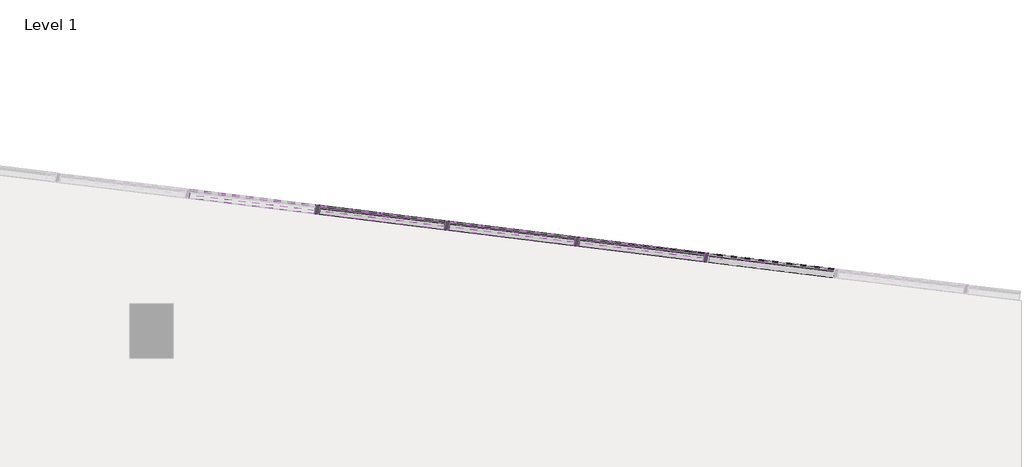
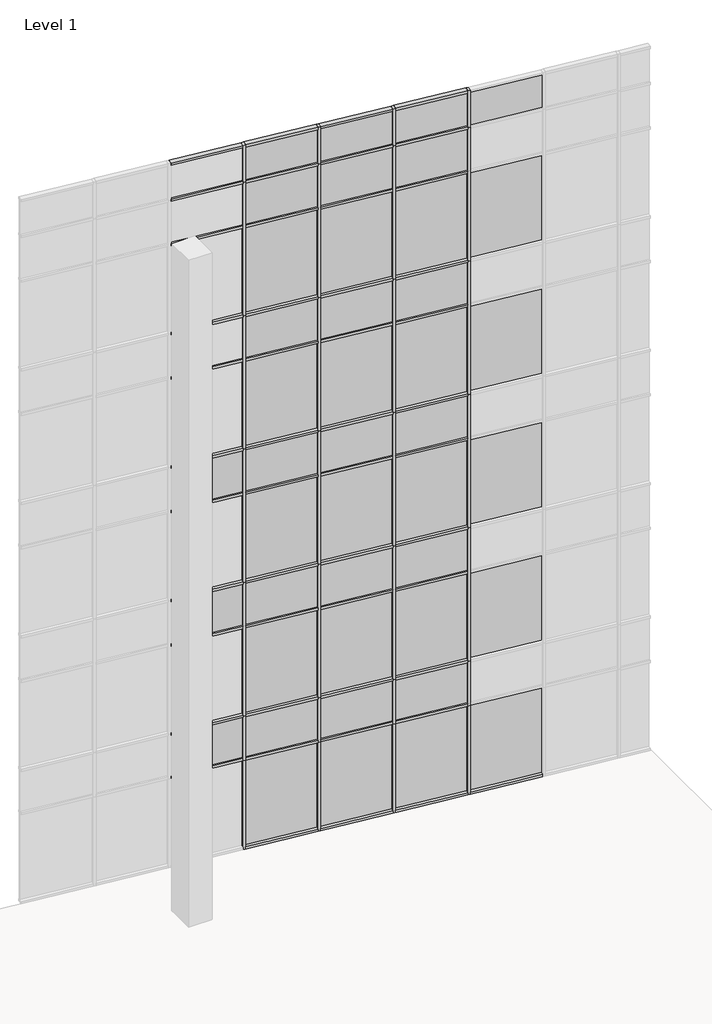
# One storey, part 21 of 23: 76 members, 42 plates.
"""IFC4 building model written with IfcOpenShell, lengths in millimetres."""

from ifc_helpers import new_model, si_unit, origin, place, context, project, spatial, transform, mapped, element, save
from components import member_2b49869a, member_f92b8aa2, member_810865a4, member_f0fea5a5, member_6d5c3e5e, member_9764dd38, system_panel_glazed_14c75400, system_panel_solid_5dfe6f83, system_panel_solid_e25e2004, system_panel_solid_b7551183

model = new_model("IFC4")

# Units and contexts
model_context = context("Model", 3, world=origin())
ifc_project = project(units=[si_unit("LENGTHUNIT", "METRE", prefix="MILLI")], contexts=[model_context])

# Site, building, storey
site = spatial("IfcSite", under=ifc_project)
building = spatial("IfcBuilding", under=site)
storey = spatial("IfcBuildingStorey", under=building, Name="Level 1", Elevation=0.0)

# Members
placement = place(None, origin())
member_shape = member_2b49869a(model_context)
element("IfcMember", 1, ObjectType="Rectangular Mullion : 2.5\" x 5\" rectangular", at=placement, inside=storey, context=model_context, shape_type="MappedRepresentation", body=[
    mapped(member_shape, transform((10636.016062, 10565.4226148, 2438.4), x_axis=(0.9925461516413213, -0.12186934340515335, 0.0), y_axis=(-0.12186934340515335, -0.9925461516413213, 0.0), z_axis=(0.0, 0.0, -1.0))),
])
element("IfcMember", 2, ObjectType="Rectangular Mullion : 2.5\" x 5\" rectangular", at=placement, inside=storey, context=model_context, shape_type="MappedRepresentation", body=[
    mapped(member_shape, transform((8820.8476599, 10788.29727, 2438.4), x_axis=(0.9925461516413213, -0.12186934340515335, 0.0), y_axis=(-0.12186934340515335, -0.9925461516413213, 0.0), z_axis=(0.0, 0.0, -1.0))),
])
element("IfcMember", 3, ObjectType="Rectangular Mullion : 2.5\" x 5\" rectangular", at=placement, inside=storey, context=model_context, shape_type="MappedRepresentation", body=[
    mapped(member_shape, transform((7005.6792577, 11011.1719252, 2438.4), x_axis=(0.9925461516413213, -0.12186934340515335, 0.0), y_axis=(-0.12186934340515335, -0.9925461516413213, 0.0), z_axis=(0.0, 0.0, -1.0))),
])
element("IfcMember", 4, ObjectType="Rectangular Mullion : 2.5\" x 5\" rectangular", at=placement, inside=storey, context=model_context, shape_type="MappedRepresentation", body=[
    mapped(member_shape, transform((5190.5108556, 11234.0465804, 2438.4), x_axis=(0.9925461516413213, -0.12186934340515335, 0.0), y_axis=(-0.12186934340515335, -0.9925461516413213, 0.0), z_axis=(0.0, 0.0, -1.0))),
])
member_2_shape = member_f92b8aa2(model_context)
element("IfcMember", 5, ObjectType="Rectangular Mullion : 2.5\" x 5\" rectangular", at=placement, inside=storey, context=model_context, shape_type="MappedRepresentation", body=[
    mapped(member_2_shape, transform((10636.016062, 10565.4226148, 18288.0), x_axis=(0.9925461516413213, -0.12186934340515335, 0.0), y_axis=(-0.12186934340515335, -0.9925461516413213, 0.0), z_axis=(0.0, 0.0, -1.0))),
])
element("IfcMember", 6, ObjectType="Rectangular Mullion : 2.5\" x 5\" rectangular", at=placement, inside=storey, context=model_context, shape_type="MappedRepresentation", body=[
    mapped(member_2_shape, transform((8820.8476599, 10788.29727, 18288.0), x_axis=(0.9925461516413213, -0.12186934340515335, 0.0), y_axis=(-0.12186934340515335, -0.9925461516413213, 0.0), z_axis=(0.0, 0.0, -1.0))),
])
element("IfcMember", 7, ObjectType="Rectangular Mullion : 2.5\" x 5\" rectangular", at=placement, inside=storey, context=model_context, shape_type="MappedRepresentation", body=[
    mapped(member_2_shape, transform((7005.6792577, 11011.1719252, 18288.0), x_axis=(0.9925461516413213, -0.12186934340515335, 0.0), y_axis=(-0.12186934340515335, -0.9925461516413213, 0.0), z_axis=(0.0, 0.0, -1.0))),
])
element("IfcMember", 8, ObjectType="Rectangular Mullion : 2.5\" x 5\" rectangular", at=placement, inside=storey, context=model_context, shape_type="MappedRepresentation", body=[
    mapped(member_2_shape, transform((5190.5108556, 11234.0465804, 18288.0), x_axis=(0.9925461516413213, -0.12186934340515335, 0.0), y_axis=(-0.12186934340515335, -0.9925461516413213, 0.0), z_axis=(0.0, 0.0, -1.0))),
])
member_3_shape = member_810865a4(model_context)
element("IfcMember", 9, ObjectType="Rectangular Mullion : 2.5\" x 5\" rectangular", at=placement, inside=storey, context=model_context, shape_type="MappedRepresentation", body=[
    mapped(member_3_shape, transform((10636.016062, 10565.4226148, 14630.4), x_axis=(0.9925461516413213, -0.12186934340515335, 0.0), y_axis=(-0.12186934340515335, -0.9925461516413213, 0.0), z_axis=(0.0, 0.0, -1.0))),
])
element("IfcMember", 10, ObjectType="Rectangular Mullion : 2.5\" x 5\" rectangular", at=placement, inside=storey, context=model_context, shape_type="MappedRepresentation", body=[
    mapped(member_3_shape, transform((10636.016062, 10565.4226148, 10972.8), x_axis=(0.9925461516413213, -0.12186934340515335, 0.0), y_axis=(-0.12186934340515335, -0.9925461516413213, 0.0), z_axis=(0.0, 0.0, -1.0))),
])
element("IfcMember", 11, ObjectType="Rectangular Mullion : 2.5\" x 5\" rectangular", at=placement, inside=storey, context=model_context, shape_type="MappedRepresentation", body=[
    mapped(member_3_shape, transform((10636.016062, 10565.4226148, 7315.2), x_axis=(0.9925461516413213, -0.12186934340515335, 0.0), y_axis=(-0.12186934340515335, -0.9925461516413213, 0.0), z_axis=(0.0, 0.0, -1.0))),
])
element("IfcMember", 12, ObjectType="Rectangular Mullion : 2.5\" x 5\" rectangular", at=placement, inside=storey, context=model_context, shape_type="MappedRepresentation", body=[
    mapped(member_3_shape, transform((10636.016062, 10565.4226148, 3657.6), x_axis=(0.9925461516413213, -0.12186934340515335, 0.0), y_axis=(-0.12186934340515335, -0.9925461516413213, 0.0), z_axis=(0.0, 0.0, -1.0))),
])
element("IfcMember", 13, ObjectType="Rectangular Mullion : 2.5\" x 5\" rectangular", at=placement, inside=storey, context=model_context, shape_type="MappedRepresentation", body=[
    mapped(member_3_shape, transform((8820.8476599, 10788.29727, 14630.4), x_axis=(0.9925461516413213, -0.12186934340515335, 0.0), y_axis=(-0.12186934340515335, -0.9925461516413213, 0.0), z_axis=(0.0, 0.0, -1.0))),
])
element("IfcMember", 14, ObjectType="Rectangular Mullion : 2.5\" x 5\" rectangular", at=placement, inside=storey, context=model_context, shape_type="MappedRepresentation", body=[
    mapped(member_3_shape, transform((8820.8476599, 10788.29727, 10972.8), x_axis=(0.9925461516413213, -0.12186934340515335, 0.0), y_axis=(-0.12186934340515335, -0.9925461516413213, 0.0), z_axis=(0.0, 0.0, -1.0))),
])
element("IfcMember", 15, ObjectType="Rectangular Mullion : 2.5\" x 5\" rectangular", at=placement, inside=storey, context=model_context, shape_type="MappedRepresentation", body=[
    mapped(member_3_shape, transform((8820.8476599, 10788.29727, 7315.2), x_axis=(0.9925461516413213, -0.12186934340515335, 0.0), y_axis=(-0.12186934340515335, -0.9925461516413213, 0.0), z_axis=(0.0, 0.0, -1.0))),
])
element("IfcMember", 16, ObjectType="Rectangular Mullion : 2.5\" x 5\" rectangular", at=placement, inside=storey, context=model_context, shape_type="MappedRepresentation", body=[
    mapped(member_3_shape, transform((8820.8476599, 10788.29727, 3657.6), x_axis=(0.9925461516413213, -0.12186934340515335, 0.0), y_axis=(-0.12186934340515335, -0.9925461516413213, 0.0), z_axis=(0.0, 0.0, -1.0))),
])
element("IfcMember", 17, ObjectType="Rectangular Mullion : 2.5\" x 5\" rectangular", at=placement, inside=storey, context=model_context, shape_type="MappedRepresentation", body=[
    mapped(member_3_shape, transform((7005.6792577, 11011.1719252, 14630.4), x_axis=(0.9925461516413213, -0.12186934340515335, 0.0), y_axis=(-0.12186934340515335, -0.9925461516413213, 0.0), z_axis=(0.0, 0.0, -1.0))),
])
element("IfcMember", 18, ObjectType="Rectangular Mullion : 2.5\" x 5\" rectangular", at=placement, inside=storey, context=model_context, shape_type="MappedRepresentation", body=[
    mapped(member_3_shape, transform((7005.6792577, 11011.1719252, 10972.8), x_axis=(0.9925461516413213, -0.12186934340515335, 0.0), y_axis=(-0.12186934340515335, -0.9925461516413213, 0.0), z_axis=(0.0, 0.0, -1.0))),
])
element("IfcMember", 19, ObjectType="Rectangular Mullion : 2.5\" x 5\" rectangular", at=placement, inside=storey, context=model_context, shape_type="MappedRepresentation", body=[
    mapped(member_3_shape, transform((7005.6792577, 11011.1719252, 7315.2), x_axis=(0.9925461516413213, -0.12186934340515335, 0.0), y_axis=(-0.12186934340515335, -0.9925461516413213, 0.0), z_axis=(0.0, 0.0, -1.0))),
])
element("IfcMember", 20, ObjectType="Rectangular Mullion : 2.5\" x 5\" rectangular", at=placement, inside=storey, context=model_context, shape_type="MappedRepresentation", body=[
    mapped(member_3_shape, transform((7005.6792577, 11011.1719252, 3657.6), x_axis=(0.9925461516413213, -0.12186934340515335, 0.0), y_axis=(-0.12186934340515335, -0.9925461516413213, 0.0), z_axis=(0.0, 0.0, -1.0))),
])
element("IfcMember", 21, ObjectType="Rectangular Mullion : 2.5\" x 5\" rectangular", at=placement, inside=storey, context=model_context, shape_type="MappedRepresentation", body=[
    mapped(member_3_shape, transform((5190.5108556, 11234.0465804, 14630.4), x_axis=(0.9925461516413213, -0.12186934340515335, 0.0), y_axis=(-0.12186934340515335, -0.9925461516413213, 0.0), z_axis=(0.0, 0.0, -1.0))),
])
element("IfcMember", 22, ObjectType="Rectangular Mullion : 2.5\" x 5\" rectangular", at=placement, inside=storey, context=model_context, shape_type="MappedRepresentation", body=[
    mapped(member_3_shape, transform((5190.5108556, 11234.0465804, 10972.8), x_axis=(0.9925461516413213, -0.12186934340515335, 0.0), y_axis=(-0.12186934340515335, -0.9925461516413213, 0.0), z_axis=(0.0, 0.0, -1.0))),
])
element("IfcMember", 23, ObjectType="Rectangular Mullion : 2.5\" x 5\" rectangular", at=placement, inside=storey, context=model_context, shape_type="MappedRepresentation", body=[
    mapped(member_3_shape, transform((5190.5108556, 11234.0465804, 7315.2), x_axis=(0.9925461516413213, -0.12186934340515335, 0.0), y_axis=(-0.12186934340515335, -0.9925461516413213, 0.0), z_axis=(0.0, 0.0, -1.0))),
])
element("IfcMember", 24, ObjectType="Rectangular Mullion : 2.5\" x 5\" rectangular", at=placement, inside=storey, context=model_context, shape_type="MappedRepresentation", body=[
    mapped(member_3_shape, transform((5190.5108556, 11234.0465804, 3657.6), x_axis=(0.9925461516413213, -0.12186934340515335, 0.0), y_axis=(-0.12186934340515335, -0.9925461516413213, 0.0), z_axis=(0.0, 0.0, -1.0))),
])
member_4_shape = member_f0fea5a5(model_context)
element("IfcMember", 25, ObjectType="Rectangular Mullion : 2.5\" x 5\" rectangular", at=placement, inside=storey, context=model_context, shape_type="MappedRepresentation", body=[
    mapped(member_4_shape, transform((8820.8476599, 10788.29727, 0.0), x_axis=(0.9925461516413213, -0.12186934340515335, 0.0), y_axis=(-0.12186934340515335, -0.9925461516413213, 0.0), z_axis=(0.0, 0.0, -1.0))),
])
element("IfcMember", 26, ObjectType="Rectangular Mullion : 2.5\" x 5\" rectangular", at=placement, inside=storey, context=model_context, shape_type="MappedRepresentation", body=[
    mapped(member_4_shape, transform((7005.6792577, 11011.1719252, 0.0), x_axis=(0.9925461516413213, -0.12186934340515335, 0.0), y_axis=(-0.12186934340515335, -0.9925461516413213, 0.0), z_axis=(0.0, 0.0, -1.0))),
])
element("IfcMember", 27, ObjectType="Rectangular Mullion : 2.5\" x 5\" rectangular", at=placement, inside=storey, context=model_context, shape_type="MappedRepresentation", body=[
    mapped(member_4_shape, transform((5190.5108556, 11234.0465804, 0.0), x_axis=(0.9925461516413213, -0.12186934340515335, 0.0), y_axis=(-0.12186934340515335, -0.9925461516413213, 0.0), z_axis=(0.0, 0.0, -1.0))),
])
element("IfcMember", 28, ObjectType="Rectangular Mullion : 2.5\" x 5\" rectangular", at=placement, inside=storey, context=model_context, shape_type="MappedRepresentation", body=[
    mapped(member_4_shape, transform((10636.016062, 10565.4226148, 0.0), x_axis=(0.9925461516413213, -0.12186934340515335, 0.0), y_axis=(-0.12186934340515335, -0.9925461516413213, 0.0), z_axis=(0.0, 0.0, -1.0))),
])
member_5_shape = member_6d5c3e5e(model_context)
element("IfcMember", 29, ObjectType="Rectangular Mullion : 2.5\" x 5\" rectangular", at=placement, inside=storey, context=model_context, shape_type="MappedRepresentation", body=[
    mapped(member_5_shape, transform((10604.5027217, 10569.2919664, 19304.0), x_axis=(0.0, 0.0, 1.0), y_axis=(-0.12186934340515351, -0.9925461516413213, 0.0), z_axis=(0.9925461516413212, -0.1218693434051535, 0.0))),
])
element("IfcMember", 30, ObjectType="Rectangular Mullion : 2.5\" x 5\" rectangular", at=placement, inside=storey, context=model_context, shape_type="MappedRepresentation", body=[
    mapped(member_5_shape, transform((8789.3343195, 10792.1666216, 19304.0), x_axis=(0.0, 0.0, 1.0), y_axis=(-0.12186934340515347, -0.9925461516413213, 0.0), z_axis=(0.9925461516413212, -0.12186934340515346, 0.0))),
])
element("IfcMember", 31, ObjectType="Rectangular Mullion : 2.5\" x 5\" rectangular", at=placement, inside=storey, context=model_context, shape_type="MappedRepresentation", body=[
    mapped(member_5_shape, transform((6974.1659174, 11015.0412769, 19304.0), x_axis=(0.0, 0.0, 1.0), y_axis=(-0.12186934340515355, -0.9925461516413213, 0.0), z_axis=(0.9925461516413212, -0.12186934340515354, 0.0))),
])
element("IfcMember", 32, ObjectType="Rectangular Mullion : 2.5\" x 5\" rectangular", at=placement, inside=storey, context=model_context, shape_type="MappedRepresentation", body=[
    mapped(member_5_shape, transform((5158.9975153, 11237.9159321, 19304.0), x_axis=(0.0, 0.0, 1.0), y_axis=(-0.12186934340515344, -0.9925461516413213, 0.0), z_axis=(0.9925461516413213, -0.12186934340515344, 0.0))),
])
member_6_shape = member_9764dd38(model_context)
element("IfcMember", 33, ObjectType="Rectangular Mullion : 2.5\" x 5\" rectangular", at=placement, inside=storey, context=model_context, shape_type="MappedRepresentation", body=[
    mapped(member_6_shape, transform((10604.5027217, 10569.2919664, 17068.8), x_axis=(0.0, 0.0, 1.0), y_axis=(-0.12186934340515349, -0.9925461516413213, 0.0), z_axis=(0.9925461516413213, -0.12186934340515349, 0.0))),
])
element("IfcMember", 34, ObjectType="Rectangular Mullion : 2.5\" x 5\" rectangular", at=placement, inside=storey, context=model_context, shape_type="MappedRepresentation", body=[
    mapped(member_6_shape, transform((8789.3343195, 10792.1666216, 17068.8), x_axis=(0.0, 0.0, 1.0), y_axis=(-0.12186934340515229, -0.9925461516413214, 0.0), z_axis=(0.9925461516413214, -0.12186934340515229, 0.0))),
])
element("IfcMember", 35, ObjectType="Rectangular Mullion : 2.5\" x 5\" rectangular", at=placement, inside=storey, context=model_context, shape_type="MappedRepresentation", body=[
    mapped(member_6_shape, transform((6974.1659174, 11015.0412769, 17068.8), x_axis=(0.0, 0.0, 1.0), y_axis=(-0.12186934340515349, -0.9925461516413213, 0.0), z_axis=(0.9925461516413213, -0.12186934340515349, 0.0))),
])
element("IfcMember", 36, ObjectType="Rectangular Mullion : 2.5\" x 5\" rectangular", at=placement, inside=storey, context=model_context, shape_type="MappedRepresentation", body=[
    mapped(member_6_shape, transform((5158.9975153, 11237.9159321, 17068.8), x_axis=(0.0, 0.0, 1.0), y_axis=(-0.1218693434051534, -0.9925461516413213, 0.0), z_axis=(0.9925461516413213, -0.1218693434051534, 0.0))),
])
element("IfcMember", 37, ObjectType="Rectangular Mullion : 2.5\" x 5\" rectangular", at=placement, inside=storey, context=model_context, shape_type="MappedRepresentation", body=[
    mapped(member_6_shape, transform((10604.5027217, 10569.2919664, 13411.2), x_axis=(0.0, 0.0, 1.0), y_axis=(-0.12186934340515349, -0.9925461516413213, 0.0), z_axis=(0.9925461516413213, -0.12186934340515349, 0.0))),
])
element("IfcMember", 38, ObjectType="Rectangular Mullion : 2.5\" x 5\" rectangular", at=placement, inside=storey, context=model_context, shape_type="MappedRepresentation", body=[
    mapped(member_6_shape, transform((8789.3343195, 10792.1666216, 13411.2), x_axis=(0.0, 0.0, 1.0), y_axis=(-0.12186934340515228, -0.9925461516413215, 0.0), z_axis=(0.9925461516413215, -0.12186934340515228, 0.0))),
])
element("IfcMember", 39, ObjectType="Rectangular Mullion : 2.5\" x 5\" rectangular", at=placement, inside=storey, context=model_context, shape_type="MappedRepresentation", body=[
    mapped(member_6_shape, transform((6974.1659174, 11015.0412769, 13411.2), x_axis=(0.0, 0.0, 1.0), y_axis=(-0.12186934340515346, -0.9925461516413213, 0.0), z_axis=(0.9925461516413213, -0.12186934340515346, 0.0))),
])
element("IfcMember", 40, ObjectType="Rectangular Mullion : 2.5\" x 5\" rectangular", at=placement, inside=storey, context=model_context, shape_type="MappedRepresentation", body=[
    mapped(member_6_shape, transform((5158.9975153, 11237.9159321, 13411.2), x_axis=(0.0, 0.0, 1.0), y_axis=(-0.1218693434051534, -0.9925461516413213, 0.0), z_axis=(0.9925461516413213, -0.1218693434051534, 0.0))),
])
element("IfcMember", 41, ObjectType="Rectangular Mullion : 2.5\" x 5\" rectangular", at=placement, inside=storey, context=model_context, shape_type="MappedRepresentation", body=[
    mapped(member_6_shape, transform((10604.5027217, 10569.2919664, 9753.6), x_axis=(0.0, 0.0, 1.0), y_axis=(-0.12186934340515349, -0.9925461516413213, 0.0), z_axis=(0.9925461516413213, -0.12186934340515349, 0.0))),
])
element("IfcMember", 42, ObjectType="Rectangular Mullion : 2.5\" x 5\" rectangular", at=placement, inside=storey, context=model_context, shape_type="MappedRepresentation", body=[
    mapped(member_6_shape, transform((8789.3343195, 10792.1666216, 9753.6), x_axis=(0.0, 0.0, 1.0), y_axis=(-0.12186934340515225, -0.9925461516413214, 0.0), z_axis=(0.9925461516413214, -0.12186934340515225, 0.0))),
])
element("IfcMember", 43, ObjectType="Rectangular Mullion : 2.5\" x 5\" rectangular", at=placement, inside=storey, context=model_context, shape_type="MappedRepresentation", body=[
    mapped(member_6_shape, transform((6974.1659174, 11015.0412769, 9753.6), x_axis=(0.0, 0.0, 1.0), y_axis=(-0.12186934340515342, -0.9925461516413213, 0.0), z_axis=(0.9925461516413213, -0.12186934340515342, 0.0))),
])
element("IfcMember", 44, ObjectType="Rectangular Mullion : 2.5\" x 5\" rectangular", at=placement, inside=storey, context=model_context, shape_type="MappedRepresentation", body=[
    mapped(member_6_shape, transform((5158.9975153, 11237.9159321, 9753.6), x_axis=(0.0, 0.0, 1.0), y_axis=(-0.12186934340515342, -0.9925461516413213, 0.0), z_axis=(0.9925461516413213, -0.12186934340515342, 0.0))),
])
element("IfcMember", 45, ObjectType="Rectangular Mullion : 2.5\" x 5\" rectangular", at=placement, inside=storey, context=model_context, shape_type="MappedRepresentation", body=[
    mapped(member_6_shape, transform((10604.5027217, 10569.2919664, 6096.0), x_axis=(0.0, 0.0, 1.0), y_axis=(-0.12186934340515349, -0.9925461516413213, 0.0), z_axis=(0.9925461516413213, -0.12186934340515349, 0.0))),
])
element("IfcMember", 46, ObjectType="Rectangular Mullion : 2.5\" x 5\" rectangular", at=placement, inside=storey, context=model_context, shape_type="MappedRepresentation", body=[
    mapped(member_6_shape, transform((8789.3343195, 10792.1666216, 6096.0), x_axis=(0.0, 0.0, 1.0), y_axis=(-0.12186934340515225, -0.9925461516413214, 0.0), z_axis=(0.9925461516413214, -0.12186934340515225, 0.0))),
])
element("IfcMember", 47, ObjectType="Rectangular Mullion : 2.5\" x 5\" rectangular", at=placement, inside=storey, context=model_context, shape_type="MappedRepresentation", body=[
    mapped(member_6_shape, transform((6974.1659174, 11015.0412769, 6096.0), x_axis=(0.0, 0.0, 1.0), y_axis=(-0.12186934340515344, -0.9925461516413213, 0.0), z_axis=(0.9925461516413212, -0.12186934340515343, 0.0))),
])
element("IfcMember", 48, ObjectType="Rectangular Mullion : 2.5\" x 5\" rectangular", at=placement, inside=storey, context=model_context, shape_type="MappedRepresentation", body=[
    mapped(member_6_shape, transform((5158.9975153, 11237.9159321, 6096.0), x_axis=(0.0, 0.0, 1.0), y_axis=(-0.12186934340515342, -0.9925461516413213, 0.0), z_axis=(0.9925461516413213, -0.12186934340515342, 0.0))),
])
element("IfcMember", 49, ObjectType="Rectangular Mullion : 2.5\" x 5\" rectangular", at=placement, inside=storey, context=model_context, shape_type="MappedRepresentation", body=[
    mapped(member_6_shape, transform((10604.5027217, 10569.2919664, 2470.15), x_axis=(0.0, 0.0, 1.0), y_axis=(-0.12186934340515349, -0.9925461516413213, 0.0), z_axis=(0.9925461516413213, -0.12186934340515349, 0.0))),
])
element("IfcMember", 50, ObjectType="Rectangular Mullion : 2.5\" x 5\" rectangular", at=placement, inside=storey, context=model_context, shape_type="MappedRepresentation", body=[
    mapped(member_6_shape, transform((8789.3343195, 10792.1666216, 2470.15), x_axis=(0.0, 0.0, 1.0), y_axis=(-0.12186934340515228, -0.9925461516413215, 0.0), z_axis=(0.9925461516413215, -0.12186934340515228, 0.0))),
])
element("IfcMember", 51, ObjectType="Rectangular Mullion : 2.5\" x 5\" rectangular", at=placement, inside=storey, context=model_context, shape_type="MappedRepresentation", body=[
    mapped(member_6_shape, transform((6974.1659174, 11015.0412769, 2470.15), x_axis=(0.0, 0.0, 1.0), y_axis=(-0.12186934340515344, -0.9925461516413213, 0.0), z_axis=(0.9925461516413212, -0.12186934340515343, 0.0))),
])
element("IfcMember", 52, ObjectType="Rectangular Mullion : 2.5\" x 5\" rectangular", at=placement, inside=storey, context=model_context, shape_type="MappedRepresentation", body=[
    mapped(member_6_shape, transform((5158.9975153, 11237.9159321, 2470.15), x_axis=(0.0, 0.0, 1.0), y_axis=(-0.12186934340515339, -0.9925461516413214, 0.0), z_axis=(0.9925461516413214, -0.12186934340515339, 0.0))),
])
element("IfcMember", 53, ObjectType="Rectangular Mullion : 2.5\" x 5\" rectangular", at=placement, inside=storey, context=model_context, shape_type="MappedRepresentation", body=[
    mapped(member_5_shape, transform((10667.5294023, 10561.5532631, 0.0), x_axis=(0.0, 0.0, -1.0), y_axis=(-0.12186934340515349, -0.9925461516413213, 0.0), z_axis=(-0.9925461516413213, 0.12186934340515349, 0.0))),
])
element("IfcMember", 54, ObjectType="Rectangular Mullion : 2.5\" x 5\" rectangular", at=placement, inside=storey, context=model_context, shape_type="MappedRepresentation", body=[
    mapped(member_5_shape, transform((8852.3610002, 10784.4279183, 0.0), x_axis=(0.0, 0.0, -1.0), y_axis=(-0.12186934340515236, -0.9925461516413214, 0.0), z_axis=(-0.9925461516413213, 0.12186934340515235, 0.0))),
])
element("IfcMember", 55, ObjectType="Rectangular Mullion : 2.5\" x 5\" rectangular", at=placement, inside=storey, context=model_context, shape_type="MappedRepresentation", body=[
    mapped(member_5_shape, transform((7037.1925981, 11007.3025736, 0.0), x_axis=(0.0, 0.0, -1.0), y_axis=(-0.12186934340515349, -0.9925461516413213, 0.0), z_axis=(-0.9925461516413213, 0.12186934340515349, 0.0))),
])
element("IfcMember", 56, ObjectType="Rectangular Mullion : 2.5\" x 5\" rectangular", at=placement, inside=storey, context=model_context, shape_type="MappedRepresentation", body=[
    mapped(member_5_shape, transform((5222.0241959, 11230.1772288, 0.0), x_axis=(0.0, 0.0, -1.0), y_axis=(-0.12186934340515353, -0.9925461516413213, 0.0), z_axis=(-0.9925461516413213, 0.12186934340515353, 0.0))),
])
element("IfcMember", 57, ObjectType="Rectangular Mullion : 2.5\" x 5\" rectangular", at=placement, inside=storey, context=model_context, shape_type="MappedRepresentation", body=[
    mapped(member_6_shape, transform((6974.1659174, 11015.0412769, 3657.6), x_axis=(0.0, 0.0, 1.0), y_axis=(-0.12186934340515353, -0.9925461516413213, 0.0), z_axis=(0.9925461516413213, -0.12186934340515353, 0.0))),
])
element("IfcMember", 58, ObjectType="Rectangular Mullion : 2.5\" x 5\" rectangular", at=placement, inside=storey, context=model_context, shape_type="MappedRepresentation", body=[
    mapped(member_6_shape, transform((5158.9975153, 11237.9159321, 3657.6), x_axis=(0.0, 0.0, 1.0), y_axis=(-0.12186934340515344, -0.9925461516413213, 0.0), z_axis=(0.9925461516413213, -0.12186934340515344, 0.0))),
])
element("IfcMember", 59, ObjectType="Rectangular Mullion : 2.5\" x 5\" rectangular", at=placement, inside=storey, context=model_context, shape_type="MappedRepresentation", body=[
    mapped(member_6_shape, transform((10604.5027217, 10569.2919664, 10972.8), x_axis=(0.0, 0.0, 1.0), y_axis=(-0.12186934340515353, -0.9925461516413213, 0.0), z_axis=(0.9925461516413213, -0.12186934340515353, 0.0))),
])
element("IfcMember", 60, ObjectType="Rectangular Mullion : 2.5\" x 5\" rectangular", at=placement, inside=storey, context=model_context, shape_type="MappedRepresentation", body=[
    mapped(member_6_shape, transform((8789.3343195, 10792.1666216, 10972.8), x_axis=(0.0, 0.0, 1.0), y_axis=(-0.12186934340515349, -0.9925461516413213, 0.0), z_axis=(0.9925461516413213, -0.12186934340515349, 0.0))),
])
element("IfcMember", 61, ObjectType="Rectangular Mullion : 2.5\" x 5\" rectangular", at=placement, inside=storey, context=model_context, shape_type="MappedRepresentation", body=[
    mapped(member_6_shape, transform((6974.1659174, 11015.0412769, 10972.8), x_axis=(0.0, 0.0, 1.0), y_axis=(-0.12186934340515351, -0.9925461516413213, 0.0), z_axis=(0.9925461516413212, -0.1218693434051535, 0.0))),
])
element("IfcMember", 62, ObjectType="Rectangular Mullion : 2.5\" x 5\" rectangular", at=placement, inside=storey, context=model_context, shape_type="MappedRepresentation", body=[
    mapped(member_6_shape, transform((5158.9975153, 11237.9159321, 10972.8), x_axis=(0.0, 0.0, 1.0), y_axis=(-0.12186934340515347, -0.9925461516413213, 0.0), z_axis=(0.9925461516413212, -0.12186934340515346, 0.0))),
])
element("IfcMember", 63, ObjectType="Rectangular Mullion : 2.5\" x 5\" rectangular", at=placement, inside=storey, context=model_context, shape_type="MappedRepresentation", body=[
    mapped(member_6_shape, transform((10604.5027217, 10569.2919664, 3657.6), x_axis=(0.0, 0.0, 1.0), y_axis=(-0.12186934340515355, -0.9925461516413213, 0.0), z_axis=(0.9925461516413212, -0.12186934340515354, 0.0))),
])
element("IfcMember", 64, ObjectType="Rectangular Mullion : 2.5\" x 5\" rectangular", at=placement, inside=storey, context=model_context, shape_type="MappedRepresentation", body=[
    mapped(member_6_shape, transform((8789.3343195, 10792.1666216, 3657.6), x_axis=(0.0, 0.0, 1.0), y_axis=(-0.12186934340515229, -0.9925461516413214, 0.0), z_axis=(0.9925461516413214, -0.12186934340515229, 0.0))),
])
element("IfcMember", 65, ObjectType="Rectangular Mullion : 2.5\" x 5\" rectangular", at=placement, inside=storey, context=model_context, shape_type="MappedRepresentation", body=[
    mapped(member_6_shape, transform((10604.5027217, 10569.2919664, 14630.4), x_axis=(0.0, 0.0, 1.0), y_axis=(-0.12186934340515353, -0.9925461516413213, 0.0), z_axis=(0.9925461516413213, -0.12186934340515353, 0.0))),
])
element("IfcMember", 66, ObjectType="Rectangular Mullion : 2.5\" x 5\" rectangular", at=placement, inside=storey, context=model_context, shape_type="MappedRepresentation", body=[
    mapped(member_6_shape, transform((8789.3343195, 10792.1666216, 14630.4), x_axis=(0.0, 0.0, 1.0), y_axis=(-0.12186934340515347, -0.9925461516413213, 0.0), z_axis=(0.9925461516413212, -0.12186934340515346, 0.0))),
])
element("IfcMember", 67, ObjectType="Rectangular Mullion : 2.5\" x 5\" rectangular", at=placement, inside=storey, context=model_context, shape_type="MappedRepresentation", body=[
    mapped(member_6_shape, transform((6974.1659174, 11015.0412769, 14630.4), x_axis=(0.0, 0.0, 1.0), y_axis=(-0.12186934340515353, -0.9925461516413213, 0.0), z_axis=(0.9925461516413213, -0.12186934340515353, 0.0))),
])
element("IfcMember", 68, ObjectType="Rectangular Mullion : 2.5\" x 5\" rectangular", at=placement, inside=storey, context=model_context, shape_type="MappedRepresentation", body=[
    mapped(member_6_shape, transform((5158.9975153, 11237.9159321, 14630.4), x_axis=(0.0, 0.0, 1.0), y_axis=(-0.12186934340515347, -0.9925461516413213, 0.0), z_axis=(0.9925461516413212, -0.12186934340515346, 0.0))),
])
element("IfcMember", 69, ObjectType="Rectangular Mullion : 2.5\" x 5\" rectangular", at=placement, inside=storey, context=model_context, shape_type="MappedRepresentation", body=[
    mapped(member_6_shape, transform((10604.5027217, 10569.2919664, 7315.2), x_axis=(0.0, 0.0, 1.0), y_axis=(-0.12186934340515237, -0.9925461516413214, 0.0), z_axis=(0.9925461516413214, -0.12186934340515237, 0.0))),
])
element("IfcMember", 70, ObjectType="Rectangular Mullion : 2.5\" x 5\" rectangular", at=placement, inside=storey, context=model_context, shape_type="MappedRepresentation", body=[
    mapped(member_6_shape, transform((8789.3343195, 10792.1666216, 7315.2), x_axis=(0.0, 0.0, 1.0), y_axis=(-0.12186934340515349, -0.9925461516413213, 0.0), z_axis=(0.9925461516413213, -0.12186934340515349, 0.0))),
])
element("IfcMember", 71, ObjectType="Rectangular Mullion : 2.5\" x 5\" rectangular", at=placement, inside=storey, context=model_context, shape_type="MappedRepresentation", body=[
    mapped(member_6_shape, transform((6974.1659174, 11015.0412769, 7315.2), x_axis=(0.0, 0.0, 1.0), y_axis=(-0.12186934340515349, -0.9925461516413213, 0.0), z_axis=(0.9925461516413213, -0.12186934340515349, 0.0))),
])
element("IfcMember", 72, ObjectType="Rectangular Mullion : 2.5\" x 5\" rectangular", at=placement, inside=storey, context=model_context, shape_type="MappedRepresentation", body=[
    mapped(member_6_shape, transform((5158.9975153, 11237.9159321, 7315.2), x_axis=(0.0, 0.0, 1.0), y_axis=(-0.12186934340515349, -0.9925461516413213, 0.0), z_axis=(0.9925461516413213, -0.12186934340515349, 0.0))),
])
element("IfcMember", 73, ObjectType="Rectangular Mullion : 2.5\" x 5\" rectangular", at=placement, inside=storey, context=model_context, shape_type="MappedRepresentation", body=[
    mapped(member_6_shape, transform((10604.5027217, 10569.2919664, 18288.0), x_axis=(0.0, 0.0, 1.0), y_axis=(-0.12186934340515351, -0.9925461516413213, 0.0), z_axis=(0.9925461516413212, -0.1218693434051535, 0.0))),
])
element("IfcMember", 74, ObjectType="Rectangular Mullion : 2.5\" x 5\" rectangular", at=placement, inside=storey, context=model_context, shape_type="MappedRepresentation", body=[
    mapped(member_6_shape, transform((8789.3343195, 10792.1666216, 18288.0), x_axis=(0.0, 0.0, 1.0), y_axis=(-0.12186934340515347, -0.9925461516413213, 0.0), z_axis=(0.9925461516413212, -0.12186934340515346, 0.0))),
])
element("IfcMember", 75, ObjectType="Rectangular Mullion : 2.5\" x 5\" rectangular", at=placement, inside=storey, context=model_context, shape_type="MappedRepresentation", body=[
    mapped(member_6_shape, transform((6974.1659174, 11015.0412769, 18288.0), x_axis=(0.0, 0.0, 1.0), y_axis=(-0.12186934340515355, -0.9925461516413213, 0.0), z_axis=(0.9925461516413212, -0.12186934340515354, 0.0))),
])
element("IfcMember", 76, ObjectType="Rectangular Mullion : 2.5\" x 5\" rectangular", at=placement, inside=storey, context=model_context, shape_type="MappedRepresentation", body=[
    mapped(member_6_shape, transform((5158.9975153, 11237.9159321, 18288.0), x_axis=(0.0, 0.0, 1.0), y_axis=(-0.12186934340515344, -0.9925461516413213, 0.0), z_axis=(0.9925461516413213, -0.12186934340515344, 0.0))),
])

# Plates
system_panel_glazed_shape = system_panel_glazed_14c75400(model_context)
element("IfcPlate", 77, ObjectType="System Panel : Glazed", at=placement, inside=storey, context=model_context, shape_type="MappedRepresentation", body=[
    mapped(system_panel_glazed_shape, transform((11543.600263, 10453.9852872, 14662.15), x_axis=(0.9925461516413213, -0.12186934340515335, 0.0), y_axis=(0.12186934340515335, 0.9925461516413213, 0.0), z_axis=(0.0, 0.0, 1.0))),
])
element("IfcPlate", 78, ObjectType="System Panel : Glazed", at=placement, inside=storey, context=model_context, shape_type="MappedRepresentation", body=[
    mapped(system_panel_glazed_shape, transform((9728.4318609, 10676.8599424, 14662.15), x_axis=(0.9925461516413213, -0.12186934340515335, 0.0), y_axis=(0.12186934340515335, 0.9925461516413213, 0.0), z_axis=(0.0, 0.0, 1.0))),
])
element("IfcPlate", 79, ObjectType="System Panel : Glazed", at=placement, inside=storey, context=model_context, shape_type="MappedRepresentation", body=[
    mapped(system_panel_glazed_shape, transform((7913.2634588, 10899.7345976, 14662.15), x_axis=(0.9925461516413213, -0.12186934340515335, 0.0), y_axis=(0.12186934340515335, 0.9925461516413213, 0.0), z_axis=(0.0, 0.0, 1.0))),
])
element("IfcPlate", 80, ObjectType="System Panel : Glazed", at=placement, inside=storey, context=model_context, shape_type="MappedRepresentation", body=[
    mapped(system_panel_glazed_shape, transform((6098.0950567, 11122.6092528, 14662.15), x_axis=(0.9925461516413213, -0.12186934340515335, 0.0), y_axis=(0.12186934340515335, 0.9925461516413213, 0.0), z_axis=(0.0, 0.0, 1.0))),
])
element("IfcPlate", 81, ObjectType="System Panel : Glazed", at=placement, inside=storey, context=model_context, shape_type="MappedRepresentation", body=[
    mapped(system_panel_glazed_shape, transform((11543.600263, 10453.9852872, 11004.55), x_axis=(0.9925461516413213, -0.12186934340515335, 0.0), y_axis=(0.12186934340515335, 0.9925461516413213, 0.0), z_axis=(0.0, 0.0, 1.0))),
])
element("IfcPlate", 82, ObjectType="System Panel : Glazed", at=placement, inside=storey, context=model_context, shape_type="MappedRepresentation", body=[
    mapped(system_panel_glazed_shape, transform((9728.4318609, 10676.8599424, 11004.55), x_axis=(0.9925461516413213, -0.12186934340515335, 0.0), y_axis=(0.12186934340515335, 0.9925461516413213, 0.0), z_axis=(0.0, 0.0, 1.0))),
])
element("IfcPlate", 83, ObjectType="System Panel : Glazed", at=placement, inside=storey, context=model_context, shape_type="MappedRepresentation", body=[
    mapped(system_panel_glazed_shape, transform((7913.2634588, 10899.7345976, 11004.55), x_axis=(0.9925461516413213, -0.12186934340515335, 0.0), y_axis=(0.12186934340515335, 0.9925461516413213, 0.0), z_axis=(0.0, 0.0, 1.0))),
])
element("IfcPlate", 84, ObjectType="System Panel : Glazed", at=placement, inside=storey, context=model_context, shape_type="MappedRepresentation", body=[
    mapped(system_panel_glazed_shape, transform((6098.0950567, 11122.6092528, 11004.55), x_axis=(0.9925461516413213, -0.12186934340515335, 0.0), y_axis=(0.12186934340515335, 0.9925461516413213, 0.0), z_axis=(0.0, 0.0, 1.0))),
])
element("IfcPlate", 85, ObjectType="System Panel : Glazed", at=placement, inside=storey, context=model_context, shape_type="MappedRepresentation", body=[
    mapped(system_panel_glazed_shape, transform((11543.600263, 10453.9852872, 7346.95), x_axis=(0.9925461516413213, -0.12186934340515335, 0.0), y_axis=(0.12186934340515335, 0.9925461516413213, 0.0), z_axis=(0.0, 0.0, 1.0))),
])
element("IfcPlate", 86, ObjectType="System Panel : Glazed", at=placement, inside=storey, context=model_context, shape_type="MappedRepresentation", body=[
    mapped(system_panel_glazed_shape, transform((9728.4318609, 10676.8599424, 7346.95), x_axis=(0.9925461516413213, -0.12186934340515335, 0.0), y_axis=(0.12186934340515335, 0.9925461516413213, 0.0), z_axis=(0.0, 0.0, 1.0))),
])
element("IfcPlate", 87, ObjectType="System Panel : Glazed", at=placement, inside=storey, context=model_context, shape_type="MappedRepresentation", body=[
    mapped(system_panel_glazed_shape, transform((7913.2634588, 10899.7345976, 7346.95), x_axis=(0.9925461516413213, -0.12186934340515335, 0.0), y_axis=(0.12186934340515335, 0.9925461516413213, 0.0), z_axis=(0.0, 0.0, 1.0))),
])
element("IfcPlate", 88, ObjectType="System Panel : Glazed", at=placement, inside=storey, context=model_context, shape_type="MappedRepresentation", body=[
    mapped(system_panel_glazed_shape, transform((6098.0950567, 11122.6092528, 7346.95), x_axis=(0.9925461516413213, -0.12186934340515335, 0.0), y_axis=(0.12186934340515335, 0.9925461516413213, 0.0), z_axis=(0.0, 0.0, 1.0))),
])
element("IfcPlate", 89, ObjectType="System Panel : Glazed", at=placement, inside=storey, context=model_context, shape_type="MappedRepresentation", body=[
    mapped(system_panel_glazed_shape, transform((11543.600263, 10453.9852872, 3689.35), x_axis=(0.9925461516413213, -0.12186934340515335, 0.0), y_axis=(0.12186934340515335, 0.9925461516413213, 0.0), z_axis=(0.0, 0.0, 1.0))),
])
element("IfcPlate", 90, ObjectType="System Panel : Glazed", at=placement, inside=storey, context=model_context, shape_type="MappedRepresentation", body=[
    mapped(system_panel_glazed_shape, transform((9728.4318609, 10676.8599424, 3689.35), x_axis=(0.9925461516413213, -0.12186934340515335, 0.0), y_axis=(0.12186934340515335, 0.9925461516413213, 0.0), z_axis=(0.0, 0.0, 1.0))),
])
element("IfcPlate", 91, ObjectType="System Panel : Glazed", at=placement, inside=storey, context=model_context, shape_type="MappedRepresentation", body=[
    mapped(system_panel_glazed_shape, transform((7913.2634588, 10899.7345976, 3689.35), x_axis=(0.9925461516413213, -0.12186934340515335, 0.0), y_axis=(0.12186934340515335, 0.9925461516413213, 0.0), z_axis=(0.0, 0.0, 1.0))),
])
element("IfcPlate", 92, ObjectType="System Panel : Glazed", at=placement, inside=storey, context=model_context, shape_type="MappedRepresentation", body=[
    mapped(system_panel_glazed_shape, transform((6098.0950567, 11122.6092528, 3689.35), x_axis=(0.9925461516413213, -0.12186934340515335, 0.0), y_axis=(0.12186934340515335, 0.9925461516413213, 0.0), z_axis=(0.0, 0.0, 1.0))),
])
element("IfcPlate", 93, ObjectType="System Panel : Glazed", at=placement, inside=storey, context=model_context, shape_type="MappedRepresentation", body=[
    mapped(system_panel_glazed_shape, transform((11543.600263, 10453.9852872, 63.5), x_axis=(0.9925461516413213, -0.12186934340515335, 0.0), y_axis=(0.12186934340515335, 0.9925461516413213, 0.0), z_axis=(0.0, 0.0, 1.0))),
])
element("IfcPlate", 94, ObjectType="System Panel : Glazed", at=placement, inside=storey, context=model_context, shape_type="MappedRepresentation", body=[
    mapped(system_panel_glazed_shape, transform((9728.4318609, 10676.8599424, 63.5), x_axis=(0.9925461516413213, -0.12186934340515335, 0.0), y_axis=(0.12186934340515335, 0.9925461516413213, 0.0), z_axis=(0.0, 0.0, 1.0))),
])
element("IfcPlate", 95, ObjectType="System Panel : Glazed", at=placement, inside=storey, context=model_context, shape_type="MappedRepresentation", body=[
    mapped(system_panel_glazed_shape, transform((7913.2634588, 10899.7345976, 63.5), x_axis=(0.9925461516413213, -0.12186934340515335, 0.0), y_axis=(0.12186934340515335, 0.9925461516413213, 0.0), z_axis=(0.0, 0.0, 1.0))),
])
element("IfcPlate", 96, ObjectType="System Panel : Glazed", at=placement, inside=storey, context=model_context, shape_type="MappedRepresentation", body=[
    mapped(system_panel_glazed_shape, transform((6098.0950567, 11122.6092528, 63.5), x_axis=(0.9925461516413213, -0.12186934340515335, 0.0), y_axis=(0.12186934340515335, 0.9925461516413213, 0.0), z_axis=(0.0, 0.0, 1.0))),
])
system_panel_solid_shape = system_panel_solid_5dfe6f83(model_context)
element("IfcPlate", 97, ObjectType="System Panel : Solid", at=placement, inside=storey, context=model_context, shape_type="MappedRepresentation", body=[
    mapped(system_panel_solid_shape, transform((6098.0950567, 11122.6092528, 18319.75), x_axis=(0.9925461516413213, -0.12186934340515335, 0.0), y_axis=(0.12186934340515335, 0.9925461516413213, 0.0), z_axis=(0.0, 0.0, 1.0))),
])
element("IfcPlate", 98, ObjectType="System Panel : Solid", at=placement, inside=storey, context=model_context, shape_type="MappedRepresentation", body=[
    mapped(system_panel_solid_shape, transform((7913.2634588, 10899.7345976, 18319.75), x_axis=(0.9925461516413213, -0.12186934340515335, 0.0), y_axis=(0.12186934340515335, 0.9925461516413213, 0.0), z_axis=(0.0, 0.0, 1.0))),
])
element("IfcPlate", 99, ObjectType="System Panel : Solid", at=placement, inside=storey, context=model_context, shape_type="MappedRepresentation", body=[
    mapped(system_panel_solid_shape, transform((9728.4318609, 10676.8599424, 18319.75), x_axis=(0.9925461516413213, -0.12186934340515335, 0.0), y_axis=(0.12186934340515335, 0.9925461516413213, 0.0), z_axis=(0.0, 0.0, 1.0))),
])
element("IfcPlate", 100, ObjectType="System Panel : Solid", at=placement, inside=storey, context=model_context, shape_type="MappedRepresentation", body=[
    mapped(system_panel_solid_shape, transform((11543.600263, 10453.9852872, 18319.75), x_axis=(0.9925461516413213, -0.12186934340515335, 0.0), y_axis=(0.12186934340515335, 0.9925461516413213, 0.0), z_axis=(0.0, 0.0, 1.0))),
])
system_panel_solid_2_shape = system_panel_solid_e25e2004(model_context)
element("IfcPlate", 101, ObjectType="System Panel : Solid", at=placement, inside=storey, context=model_context, shape_type="MappedRepresentation", body=[
    mapped(system_panel_solid_2_shape, transform((9728.4318609, 10676.8599424, 17100.55), x_axis=(0.9925461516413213, -0.12186934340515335, 0.0), y_axis=(0.12186934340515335, 0.9925461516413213, 0.0), z_axis=(0.0, 0.0, 1.0))),
])
element("IfcPlate", 102, ObjectType="System Panel : Solid", at=placement, inside=storey, context=model_context, shape_type="MappedRepresentation", body=[
    mapped(system_panel_solid_2_shape, transform((7913.2634588, 10899.7345976, 17100.55), x_axis=(0.9925461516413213, -0.12186934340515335, 0.0), y_axis=(0.12186934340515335, 0.9925461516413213, 0.0), z_axis=(0.0, 0.0, 1.0))),
])
element("IfcPlate", 103, ObjectType="System Panel : Solid", at=placement, inside=storey, context=model_context, shape_type="MappedRepresentation", body=[
    mapped(system_panel_solid_2_shape, transform((6098.0950567, 11122.6092528, 17100.55), x_axis=(0.9925461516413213, -0.12186934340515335, 0.0), y_axis=(0.12186934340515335, 0.9925461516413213, 0.0), z_axis=(0.0, 0.0, 1.0))),
])
element("IfcPlate", 104, ObjectType="System Panel : Solid", at=placement, inside=storey, context=model_context, shape_type="MappedRepresentation", body=[
    mapped(system_panel_solid_2_shape, transform((9728.4318609, 10676.8599424, 13442.95), x_axis=(0.9925461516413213, -0.12186934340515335, 0.0), y_axis=(0.12186934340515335, 0.9925461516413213, 0.0), z_axis=(0.0, 0.0, 1.0))),
])
element("IfcPlate", 105, ObjectType="System Panel : Solid", at=placement, inside=storey, context=model_context, shape_type="MappedRepresentation", body=[
    mapped(system_panel_solid_2_shape, transform((7913.2634588, 10899.7345976, 13442.95), x_axis=(0.9925461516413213, -0.12186934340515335, 0.0), y_axis=(0.12186934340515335, 0.9925461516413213, 0.0), z_axis=(0.0, 0.0, 1.0))),
])
element("IfcPlate", 106, ObjectType="System Panel : Solid", at=placement, inside=storey, context=model_context, shape_type="MappedRepresentation", body=[
    mapped(system_panel_solid_2_shape, transform((6098.0950567, 11122.6092528, 13442.95), x_axis=(0.9925461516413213, -0.12186934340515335, 0.0), y_axis=(0.12186934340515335, 0.9925461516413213, 0.0), z_axis=(0.0, 0.0, 1.0))),
])
element("IfcPlate", 107, ObjectType="System Panel : Solid", at=placement, inside=storey, context=model_context, shape_type="MappedRepresentation", body=[
    mapped(system_panel_solid_2_shape, transform((9728.4318609, 10676.8599424, 9785.35), x_axis=(0.9925461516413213, -0.12186934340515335, 0.0), y_axis=(0.12186934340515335, 0.9925461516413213, 0.0), z_axis=(0.0, 0.0, 1.0))),
])
element("IfcPlate", 108, ObjectType="System Panel : Solid", at=placement, inside=storey, context=model_context, shape_type="MappedRepresentation", body=[
    mapped(system_panel_solid_2_shape, transform((7913.2634588, 10899.7345976, 9785.35), x_axis=(0.9925461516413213, -0.12186934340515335, 0.0), y_axis=(0.12186934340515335, 0.9925461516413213, 0.0), z_axis=(0.0, 0.0, 1.0))),
])
element("IfcPlate", 109, ObjectType="System Panel : Solid", at=placement, inside=storey, context=model_context, shape_type="MappedRepresentation", body=[
    mapped(system_panel_solid_2_shape, transform((6098.0950567, 11122.6092528, 9785.35), x_axis=(0.9925461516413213, -0.12186934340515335, 0.0), y_axis=(0.12186934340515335, 0.9925461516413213, 0.0), z_axis=(0.0, 0.0, 1.0))),
])
element("IfcPlate", 110, ObjectType="System Panel : Solid", at=placement, inside=storey, context=model_context, shape_type="MappedRepresentation", body=[
    mapped(system_panel_solid_2_shape, transform((4282.9266546, 11345.483908, 9785.35), x_axis=(0.9925461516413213, -0.12186934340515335, 0.0), y_axis=(0.12186934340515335, 0.9925461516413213, 0.0), z_axis=(0.0, 0.0, 1.0))),
])
element("IfcPlate", 111, ObjectType="System Panel : Solid", at=placement, inside=storey, context=model_context, shape_type="MappedRepresentation", body=[
    mapped(system_panel_solid_2_shape, transform((9728.4318609, 10676.8599424, 6127.75), x_axis=(0.9925461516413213, -0.12186934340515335, 0.0), y_axis=(0.12186934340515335, 0.9925461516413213, 0.0), z_axis=(0.0, 0.0, 1.0))),
])
element("IfcPlate", 112, ObjectType="System Panel : Solid", at=placement, inside=storey, context=model_context, shape_type="MappedRepresentation", body=[
    mapped(system_panel_solid_2_shape, transform((7913.2634588, 10899.7345976, 6127.75), x_axis=(0.9925461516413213, -0.12186934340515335, 0.0), y_axis=(0.12186934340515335, 0.9925461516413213, 0.0), z_axis=(0.0, 0.0, 1.0))),
])
element("IfcPlate", 113, ObjectType="System Panel : Solid", at=placement, inside=storey, context=model_context, shape_type="MappedRepresentation", body=[
    mapped(system_panel_solid_2_shape, transform((6098.0950567, 11122.6092528, 6127.75), x_axis=(0.9925461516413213, -0.12186934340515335, 0.0), y_axis=(0.12186934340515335, 0.9925461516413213, 0.0), z_axis=(0.0, 0.0, 1.0))),
])
element("IfcPlate", 114, ObjectType="System Panel : Solid", at=placement, inside=storey, context=model_context, shape_type="MappedRepresentation", body=[
    mapped(system_panel_solid_2_shape, transform((4282.9266546, 11345.483908, 6127.75), x_axis=(0.9925461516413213, -0.12186934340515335, 0.0), y_axis=(0.12186934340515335, 0.9925461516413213, 0.0), z_axis=(0.0, 0.0, 1.0))),
])
system_panel_solid_3_shape = system_panel_solid_b7551183(model_context)
element("IfcPlate", 115, ObjectType="System Panel : Solid", at=placement, inside=storey, context=model_context, shape_type="MappedRepresentation", body=[
    mapped(system_panel_solid_3_shape, transform((9728.4318609, 10676.8599424, 2501.9), x_axis=(0.9925461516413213, -0.12186934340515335, 0.0), y_axis=(0.12186934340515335, 0.9925461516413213, 0.0), z_axis=(0.0, 0.0, 1.0))),
])
element("IfcPlate", 116, ObjectType="System Panel : Solid", at=placement, inside=storey, context=model_context, shape_type="MappedRepresentation", body=[
    mapped(system_panel_solid_3_shape, transform((7913.2634588, 10899.7345976, 2501.9), x_axis=(0.9925461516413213, -0.12186934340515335, 0.0), y_axis=(0.12186934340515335, 0.9925461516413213, 0.0), z_axis=(0.0, 0.0, 1.0))),
])
element("IfcPlate", 117, ObjectType="System Panel : Solid", at=placement, inside=storey, context=model_context, shape_type="MappedRepresentation", body=[
    mapped(system_panel_solid_3_shape, transform((6098.0950567, 11122.6092528, 2501.9), x_axis=(0.9925461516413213, -0.12186934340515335, 0.0), y_axis=(0.12186934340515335, 0.9925461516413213, 0.0), z_axis=(0.0, 0.0, 1.0))),
])
element("IfcPlate", 118, ObjectType="System Panel : Solid", at=placement, inside=storey, context=model_context, shape_type="MappedRepresentation", body=[
    mapped(system_panel_solid_3_shape, transform((4282.9266546, 11345.483908, 2501.9), x_axis=(0.9925461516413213, -0.12186934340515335, 0.0), y_axis=(0.12186934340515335, 0.9925461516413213, 0.0), z_axis=(0.0, 0.0, 1.0))),
])

save(model, "model.ifc")
